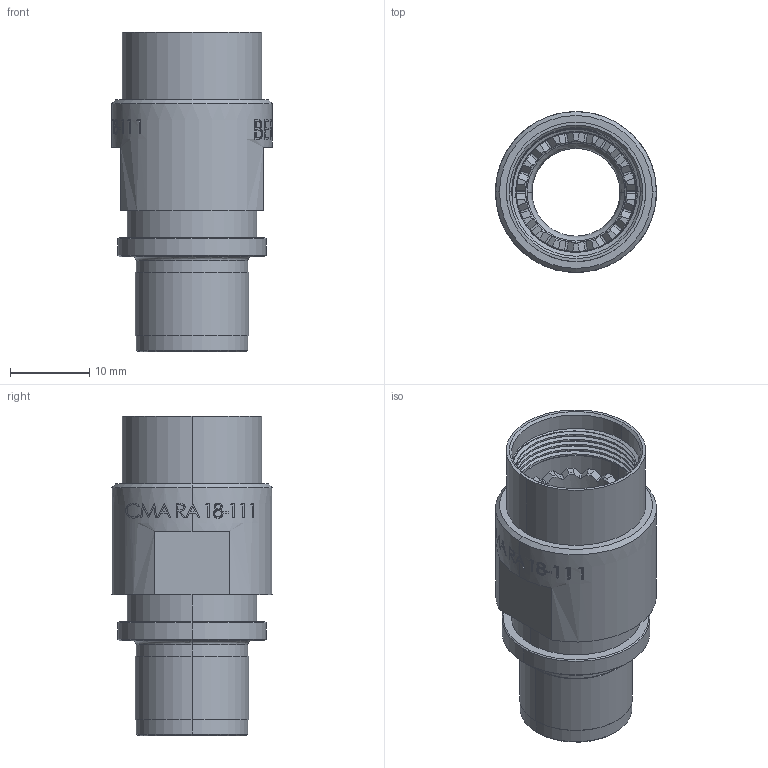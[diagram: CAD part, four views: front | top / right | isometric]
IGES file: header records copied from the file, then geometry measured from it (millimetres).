
Start section: SolidWorks IGES file using analytic representation for surfaces
Global section: file name: C:\Users\JGC\Desktop\CMA RA18-1111.IGS; native system: SolidWorks 2017; preprocessor: SolidWorks 2017; author: jgc; date: 190307.100045; units: millimetre
Bounding box: 20.3 x 20.3 x 40.3 mm (x, y, z)
Volume: 4630.4 mm3; surface area: 4594.5 mm2
Topology: 1 solids, 1 shells, 398 faces, 1060 edges, 694 vertices
Faces by surface type: plane 213, revolution 128, bspline 57
